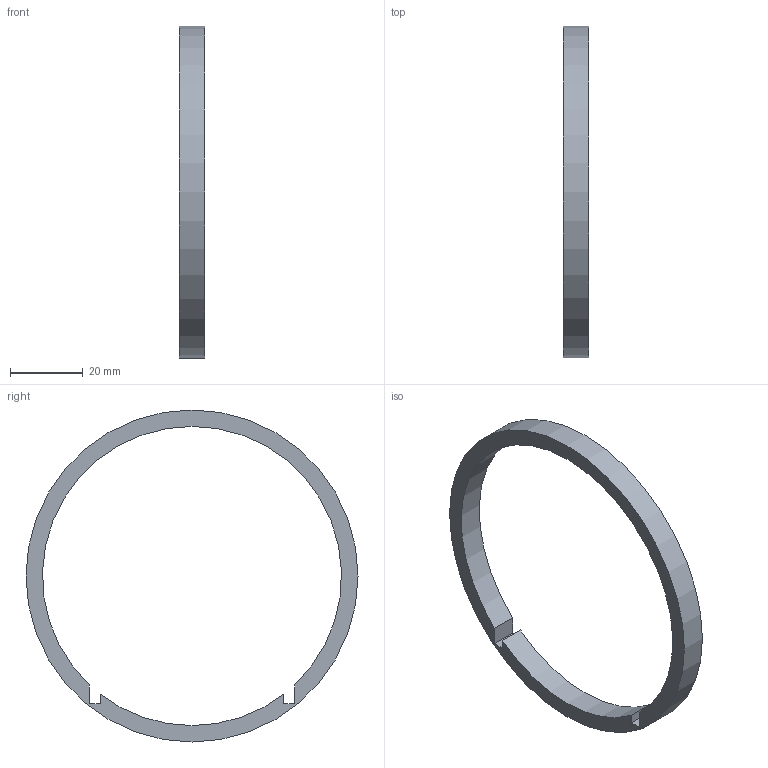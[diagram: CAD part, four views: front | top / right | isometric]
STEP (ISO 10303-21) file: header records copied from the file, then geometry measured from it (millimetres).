
FILE_DESCRIPTION(('Open CASCADE Model'),'2;1');
FILE_NAME('Open CASCADE Shape Model','2026-11-20T22:44:44',('Author'),( 'Open CASCADE'),'Open CASCADE STEP processor 7.8','Open CASCADE 7.8' ,'Unknown');
FILE_SCHEMA(('AUTOMOTIVE_DESIGN { 1 0 10303 214 1 1 1 1 }'));
Length unit declared in the file: millimetre
Products named in the file (1): Open CASCADE STEP translator 7.8 6
Bounding box: 7 x 91 x 91 mm (x, y, z)
Volume: 8399.6 mm3; surface area: 6299.2 mm2
Topology: 1 solids, 1 shells, 12 faces, 30 edges, 20 vertices
Faces by surface type: plane 8, cylinder 4
Full cylindrical faces by diameter (mm): 91 x1
Entity records: 766 total; most frequent: DIRECTION 124, CARTESIAN_POINT 123, LINE 74, VECTOR 74, ORIENTED_EDGE 60, PCURVE 60, DEFINITIONAL_REPRESENTATION 60, EDGE_CURVE 30
